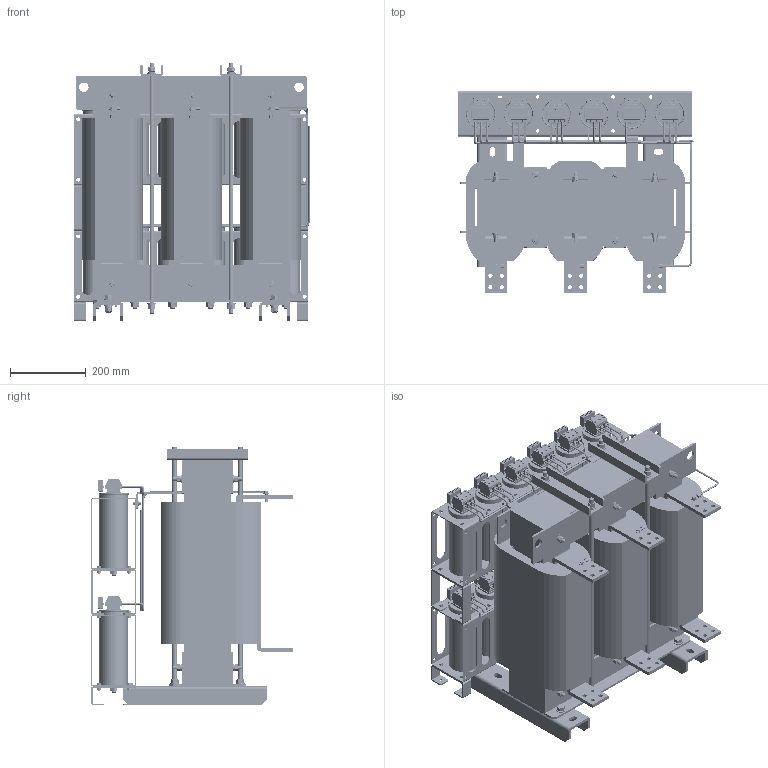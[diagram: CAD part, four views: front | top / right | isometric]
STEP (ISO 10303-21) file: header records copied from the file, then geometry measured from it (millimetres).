
FILE_DESCRIPTION (( 'STEP AP203' ), '1' );
FILE_NAME ('蔓躅漤铋 耔眢耥 翳朦蝠 _ ISINOF-400_754-4.STEP', '2026-07-21T07:32:58', ( '' ), ( '' ), 'SwSTEP 2.0', 'SolidWorks 2021', '' );
FILE_SCHEMA (( 'CONFIG_CONTROL_DESIGN' ));
Products named in the file (1): 蔓躅漤铋 耔眢耥 翳朦蝠 _ ISINOF-400_754-4
Bounding box: 622.98 x 534.01 x 685 mm (x, y, z)
Volume: 72378197 mm3; surface area: 7184065.6 mm2
Topology: 299 solids, 299 shells, 6871 faces, 18411 edges, 12190 vertices
Faces by surface type: plane 4457, cylinder 1972, cone 208, bspline 123, torus 111
Full cylindrical faces by diameter (mm): 5 x115, 5.053 x3, 6 x35, 6.3 x144, 6.45 x3, 6.5 x6, 7 x3, 7.47 x3, 8.422 x12, 9.55 x3, 10 x38, 10.106 x12, 10.75 x12, 10.833 x12, 11 x24, 12 x56, 12.9 x12, 13 x28, 15.917 x12, 19.1 x12, 20 x12, 24 x28, 25 x4, 73 x12, 76 x12, 79 x12, 80 x12
Entity records: 230073 total; most frequent: CARTESIAN_POINT 61656, ORIENTED_EDGE 34600, DIRECTION 32922, EDGE_CURVE 17300, LINE 12144, VECTOR 12144, VERTEX_POINT 11971, AXIS2_PLACEMENT_3D 10389
